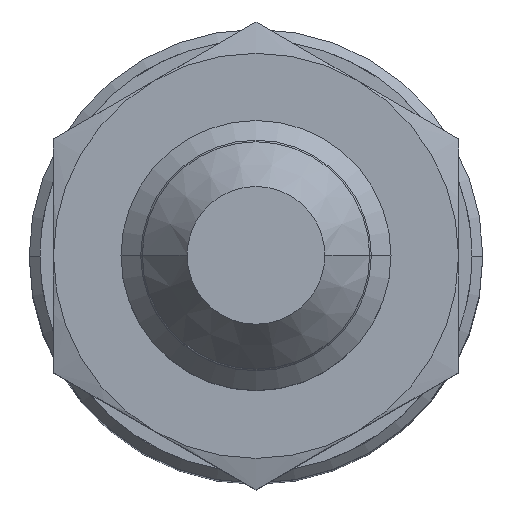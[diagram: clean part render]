
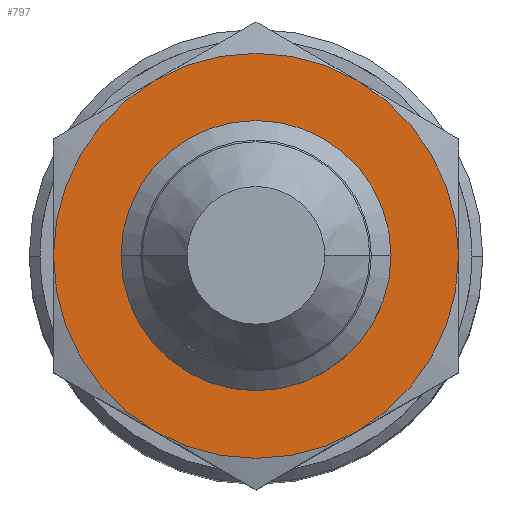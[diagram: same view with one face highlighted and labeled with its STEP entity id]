
A CAD part, top view. The second image highlights one B-rep face of the part: STEP entity #797.
In plain terms, the highlighted planar face has unit normal (0, 0, 1).
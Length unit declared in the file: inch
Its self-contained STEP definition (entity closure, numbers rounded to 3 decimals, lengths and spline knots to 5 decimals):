
#8 = VERTEX_POINT ( 'NONE', #716 ) ;
#39 = VERTEX_POINT ( 'NONE', #681 ) ;
#240 = EDGE_CURVE ( 'NONE', #241, #8, #1266, .T. ) ;
#241 = VERTEX_POINT ( 'NONE', #1119 ) ;
#380 = VERTEX_POINT ( 'NONE', #1513 ) ;
#456 = VERTEX_POINT ( 'NONE', #1697 ) ;
#468 = VERTEX_POINT ( 'NONE', #1663 ) ;
#504 = VERTEX_POINT ( 'NONE', #1627 ) ;
#536 = VERTEX_POINT ( 'NONE', #1766 ) ;
#576 = EDGE_CURVE ( 'NONE', #456, #504, #1945, .T. ) ;
#582 = EDGE_CURVE ( 'NONE', #456, #468, #1935, .T. ) ;
#639 = ORIENTED_EDGE ( 'NONE', *, *, #827, .F. ) ;
#641 = ORIENTED_EDGE ( 'NONE', *, *, #576, .F. ) ;
#681 = CARTESIAN_POINT ( 'NONE',  ( -0.1875, 0.32476, 0. ) ) ;
#716 = CARTESIAN_POINT ( 'NONE',  ( 0.213, 0., 0. ) ) ;
#766 = EDGE_CURVE ( 'NONE', #8, #241, #1844, .T. ) ;
#773 = ORIENTED_EDGE ( 'NONE', *, *, #824, .F. ) ;
#788 = ORIENTED_EDGE ( 'NONE', *, *, #814, .F. ) ;
#790 = ORIENTED_EDGE ( 'NONE', *, *, #582, .T. ) ;
#797 = ADVANCED_FACE ( 'NONE', ( #1800, #1799 ), #1798, .F. ) ;
#798 = EDGE_LOOP ( 'NONE', ( #799, #800 ) ) ;
#799 = ORIENTED_EDGE ( 'NONE', *, *, #766, .T. ) ;
#800 = ORIENTED_EDGE ( 'NONE', *, *, #240, .T. ) ;
#801 = EDGE_LOOP ( 'NONE', ( #802, #773, #788, #641, #790, #639 ) ) ;
#802 = ORIENTED_EDGE ( 'NONE', *, *, #804, .F. ) ;
#804 = EDGE_CURVE ( 'NONE', #380, #39, #1792, .T. ) ;
#814 = EDGE_CURVE ( 'NONE', #504, #536, #1777, .T. ) ;
#824 = EDGE_CURVE ( 'NONE', #536, #380, #2018, .T. ) ;
#827 = EDGE_CURVE ( 'NONE', #39, #468, #2012, .T. ) ;
#1119 = CARTESIAN_POINT ( 'NONE',  ( -0.213, 0., 0. ) ) ;
#1120 = DIRECTION ( 'NONE',  ( -1., 0., 0. ) ) ;
#1121 = DIRECTION ( 'NONE',  ( 0., 0., -1. ) ) ;
#1122 = CARTESIAN_POINT ( 'NONE',  ( 0., 0., 0. ) ) ;
#1265 = AXIS2_PLACEMENT_3D ( 'NONE', #1122, #1121, #1120 ) ;
#1266 = CIRCLE ( 'NONE', #1265, 0.213 ) ;
#1513 = CARTESIAN_POINT ( 'NONE',  ( -0.375, 0., 0. ) ) ;
#1627 = CARTESIAN_POINT ( 'NONE',  ( 0.1875, -0.32476, 0. ) ) ;
#1663 = CARTESIAN_POINT ( 'NONE',  ( 0.1875, 0.32476, 0. ) ) ;
#1697 = CARTESIAN_POINT ( 'NONE',  ( 0.375, 0., 0. ) ) ;
#1766 = CARTESIAN_POINT ( 'NONE',  ( -0.1875, -0.32476, 0. ) ) ;
#1773 = DIRECTION ( 'NONE',  ( -1., 0., 0. ) ) ;
#1774 = DIRECTION ( 'NONE',  ( 0., 0., -1. ) ) ;
#1775 = CARTESIAN_POINT ( 'NONE',  ( 0., 0., 0. ) ) ;
#1776 = AXIS2_PLACEMENT_3D ( 'NONE', #1775, #1774, #1773 ) ;
#1777 = CIRCLE ( 'NONE', #1776, 0.375 ) ;
#1789 = DIRECTION ( 'NONE',  ( -1., 0., 0. ) ) ;
#1790 = DIRECTION ( 'NONE',  ( 0., 0., -1. ) ) ;
#1791 = AXIS2_PLACEMENT_3D ( 'NONE', #1797, #1790, #1789 ) ;
#1792 = CIRCLE ( 'NONE', #1791, 0.375 ) ;
#1793 = DIRECTION ( 'NONE',  ( -1., 0., 0. ) ) ;
#1794 = DIRECTION ( 'NONE',  ( 0., 0., -1. ) ) ;
#1795 = CARTESIAN_POINT ( 'NONE',  ( 0., 0., 0. ) ) ;
#1796 = AXIS2_PLACEMENT_3D ( 'NONE', #1795, #1794, #1793 ) ;
#1797 = CARTESIAN_POINT ( 'NONE',  ( 0., 0., 0. ) ) ;
#1798 = PLANE ( 'NONE',  #1796 ) ;
#1799 = FACE_OUTER_BOUND ( 'NONE', #801, .T. ) ;
#1800 = FACE_BOUND ( 'NONE', #798, .T. ) ;
#1840 = DIRECTION ( 'NONE',  ( -1., 0., 0. ) ) ;
#1841 = DIRECTION ( 'NONE',  ( 0., 0., -1. ) ) ;
#1842 = CARTESIAN_POINT ( 'NONE',  ( 0., 0., 0. ) ) ;
#1843 = AXIS2_PLACEMENT_3D ( 'NONE', #1842, #1841, #1840 ) ;
#1844 = CIRCLE ( 'NONE', #1843, 0.213 ) ;
#1931 = DIRECTION ( 'NONE',  ( 1., 0., 0. ) ) ;
#1932 = DIRECTION ( 'NONE',  ( 0., 0., 1. ) ) ;
#1933 = CARTESIAN_POINT ( 'NONE',  ( 0., 0., 0. ) ) ;
#1934 = AXIS2_PLACEMENT_3D ( 'NONE', #1933, #1932, #1931 ) ;
#1935 = CIRCLE ( 'NONE', #1934, 0.375 ) ;
#1942 = DIRECTION ( 'NONE',  ( -1., 0., 0. ) ) ;
#1943 = DIRECTION ( 'NONE',  ( 0., 0., -1. ) ) ;
#1944 = AXIS2_PLACEMENT_3D ( 'NONE', #1950, #1943, #1942 ) ;
#1945 = CIRCLE ( 'NONE', #1944, 0.375 ) ;
#1950 = CARTESIAN_POINT ( 'NONE',  ( 0., 0., 0. ) ) ;
#2006 = DIRECTION ( 'NONE',  ( -1., 0., 0. ) ) ;
#2007 = DIRECTION ( 'NONE',  ( 0., 0., -1. ) ) ;
#2008 = CARTESIAN_POINT ( 'NONE',  ( 0., 0., 0. ) ) ;
#2009 = AXIS2_PLACEMENT_3D ( 'NONE', #2008, #2007, #2006 ) ;
#2012 = CIRCLE ( 'NONE', #2009, 0.375 ) ;
#2014 = DIRECTION ( 'NONE',  ( -1., 0., 0. ) ) ;
#2015 = DIRECTION ( 'NONE',  ( 0., 0., -1. ) ) ;
#2016 = CARTESIAN_POINT ( 'NONE',  ( 0., 0., 0. ) ) ;
#2017 = AXIS2_PLACEMENT_3D ( 'NONE', #2016, #2015, #2014 ) ;
#2018 = CIRCLE ( 'NONE', #2017, 0.375 ) ;
